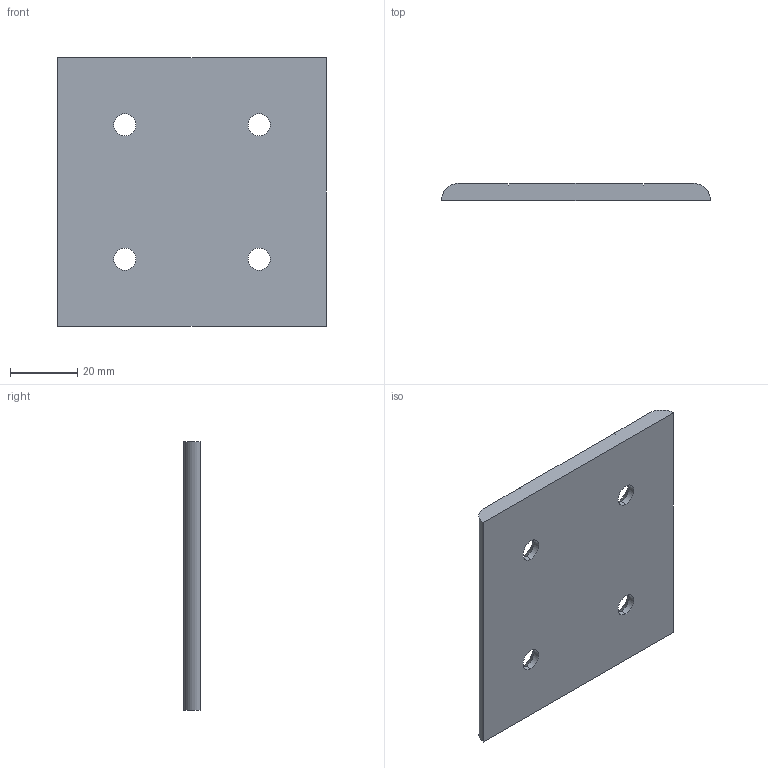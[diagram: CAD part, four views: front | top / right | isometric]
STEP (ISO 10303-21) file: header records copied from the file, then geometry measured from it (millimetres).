
FILE_DESCRIPTION (( 'STEP AP203' ), '1' );
FILE_NAME ('WFL8080P.STEP', '2024-02-19T06:32:14', ( '' ), ( '' ), 'SwSTEP 2.0', 'SolidWorks 2022', '' );
FILE_SCHEMA (( 'CONFIG_CONTROL_DESIGN' ));
Length unit declared in the file: millimetre
Products named in the file (1): WFL8080P
Bounding box: 80 x 5 x 80 mm (x, y, z)
Volume: 29955 mm3; surface area: 14140.7 mm2
Topology: 1 solids, 1 shells, 36 faces, 98 edges, 60 vertices
Faces by surface type: plane 18, cylinder 10, cone 8
Entity records: 1231 total; most frequent: CARTESIAN_POINT 243, ORIENTED_EDGE 196, DIRECTION 184, EDGE_CURVE 98, AXIS2_PLACEMENT_3D 65, VERTEX_POINT 60, LINE 54, VECTOR 54
